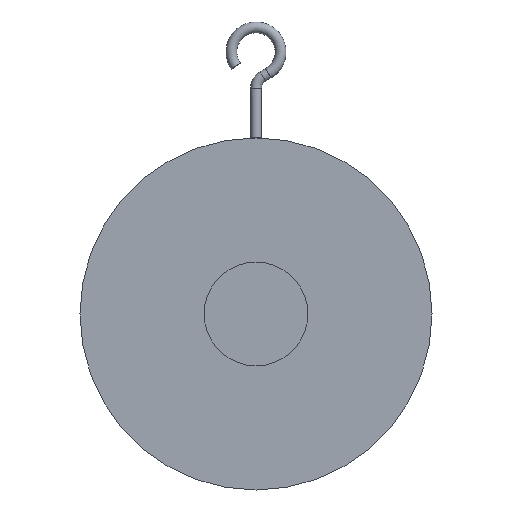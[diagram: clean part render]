
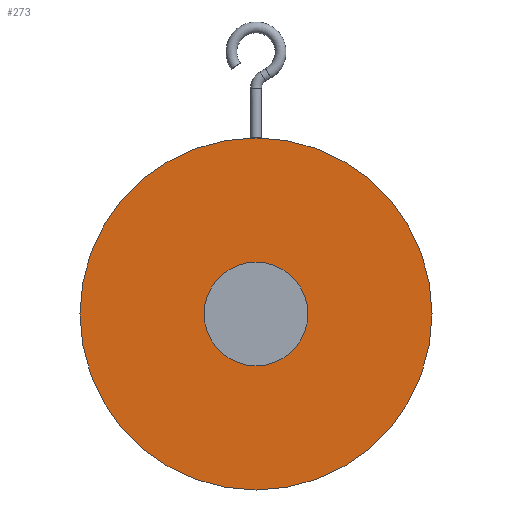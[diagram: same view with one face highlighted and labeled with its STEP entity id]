
A CAD part, front view. The second image highlights one B-rep face of the part: STEP entity #273.
In plain terms, the highlighted planar face has unit normal (0, -1, 0).
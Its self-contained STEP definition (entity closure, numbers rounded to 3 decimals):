
#273=ADVANCED_FACE('',(#525,#527),#529,.T.);
#525=FACE_BOUND('',#526,.T.);
#526=EDGE_LOOP('',(#702));
#527=FACE_BOUND('',#528,.T.);
#528=EDGE_LOOP('',(#703));
#529=PLANE('',#530);
#530=AXIS2_PLACEMENT_3D('',#531,#532,#533);
#531=CARTESIAN_POINT('',(0.,-8.,0.));
#532=DIRECTION('',(0.,-1.,0.));
#533=DIRECTION('',(0.,0.,1.));
#702=ORIENTED_EDGE('',*,*,#772,.F.);
#703=ORIENTED_EDGE('',*,*,#774,.T.);
#772=EDGE_CURVE('',#877,#877,#878,.T.);
#774=EDGE_CURVE('',#881,#881,#882,.T.);
#877=VERTEX_POINT('',#1327);
#878=CIRCLE('',#1328,64.5);
#881=VERTEX_POINT('',#1337);
#882=CIRCLE('',#1338,19.);
#1327=CARTESIAN_POINT('',(0.,-8.,64.5));
#1328=AXIS2_PLACEMENT_3D('',#1329,#1330,#1331);
#1329=CARTESIAN_POINT('',(0.,-8.,0.));
#1330=DIRECTION('',(0.,1.,0.));
#1331=DIRECTION('',(0.,0.,1.));
#1337=CARTESIAN_POINT('',(0.,-8.,19.));
#1338=AXIS2_PLACEMENT_3D('',#1339,#1340,#1341);
#1339=CARTESIAN_POINT('',(0.,-8.,0.));
#1340=DIRECTION('',(0.,1.,0.));
#1341=DIRECTION('',(0.,0.,1.));
